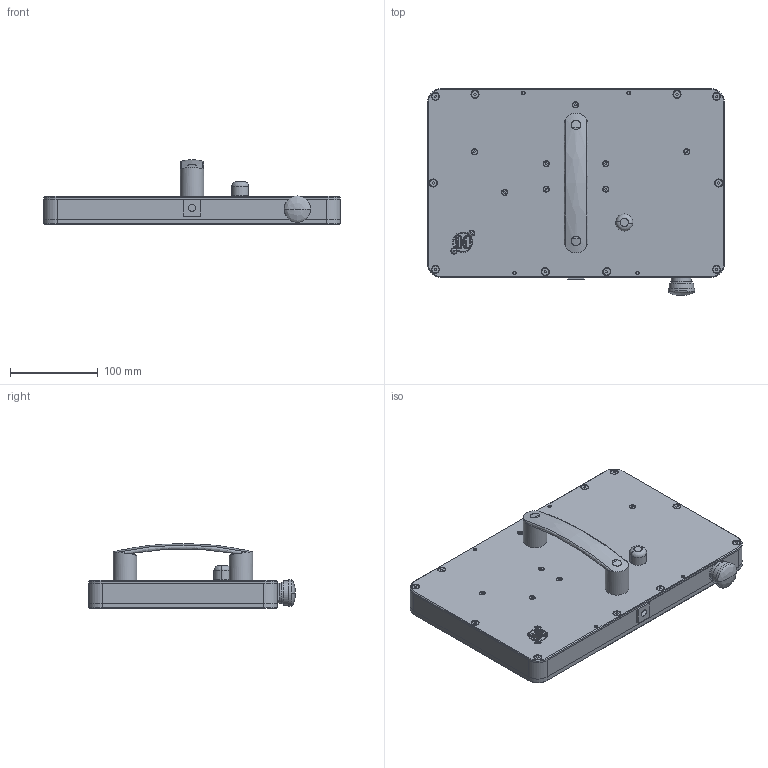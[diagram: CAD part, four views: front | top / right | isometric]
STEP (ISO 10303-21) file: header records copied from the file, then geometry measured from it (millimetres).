
FILE_DESCRIPTION (( 'STEP AP214' ), '1' );
FILE_NAME ('Bedienpanel_200311.STEP', '2020-03-11T08:12:26', ( '' ), ( '' ), 'SwSTEP 2.0', 'SolidWorks 2016', '' );
FILE_SCHEMA (( 'AUTOMOTIVE_DESIGN' ));
Length unit declared in the file: millimetre
Products named in the file (1): Bedienpanel_200311
Bounding box: 338 x 235.5 x 74 mm (x, y, z)
Surface area: 214176.5 mm2 (no closed solid volume)
Topology: 0 solids, 50 shells, 338 faces, 1369 edges, 1059 vertices
Faces by surface type: plane 212, cylinder 71, cone 42, bspline 9, torus 4
Full cylindrical faces by diameter (mm): 4 x4, 6 x5, 8 x9, 10.5 x1, 10.7 x2, 22 x1, 23 x1, 24.6 x1, 26 x1, 27 x2, 27.8 x1, 30 x1
Entity records: 14802 total; most frequent: CARTESIAN_POINT 4046, DIRECTION 2108, ORIENTED_EDGE 1767, EDGE_CURVE 1300, VERTEX_POINT 1046, LINE 886, VECTOR 886, AXIS2_PLACEMENT_3D 611
